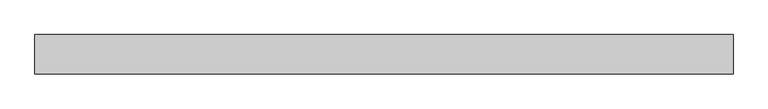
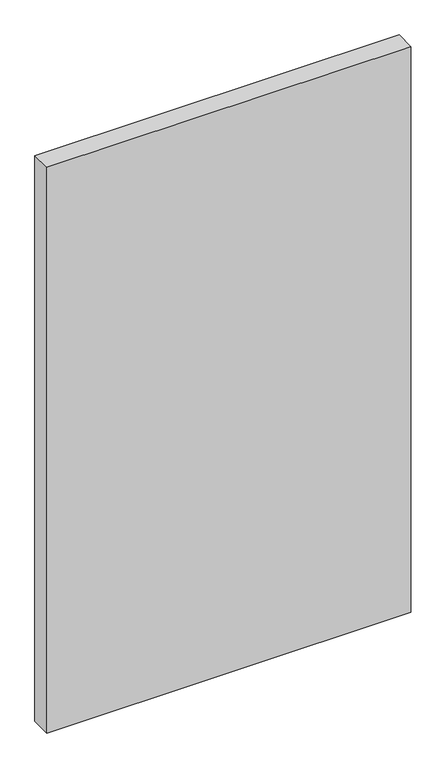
"""IFC4 building model written with IfcOpenShell, lengths in millimetres: plate geometry, Пустая системная панель : Пустая системная панель."""

import ifcopenshell
import ifcopenshell.guid

model = None  # the IFC model being written
_history = None  # IfcOwnerHistory: only IFC2X3 demands one
_inside = {}  # id of a spatial element -> (the spatial element, [elements in it])
_under = {}  # id of a project, library or spatial element -> (it, [spatial elements below it])
_declared = {}  # id of a project -> (the project, [libraries it declares])
_typed = {}  # id of a type object -> (the type object, [elements of that type])
_made_of = {}  # id of a material, layer set ... -> (it, [elements and type objects made of it])


def new_model(schema):
    """Start an empty IFC model of exactly this schema.

    Asked for "IFC4X3", IfcOpenShell would pick the latest addendum, in which some entities
    have other attributes; the version numbers below select the first issue.
    IFC2X3 requires an IfcOwnerHistory on every rooted entity: one is made here for all.
    """
    global model, _history
    if schema == "IFC4X3":
        model = ifcopenshell.file(schema_version=(4, 3, 0, 0))
    else:
        model = ifcopenshell.file(schema=schema)
    _inside.clear()
    _under.clear()
    _declared.clear()
    _typed.clear()
    _made_of.clear()
    _history = None
    if model.schema == "IFC2X3":
        org = make("IfcOrganization", Name="unknown")
        user = make(
            "IfcPersonAndOrganization",
            ThePerson=make("IfcPerson", FamilyName="unknown"),
            TheOrganization=org,
        )
        app = make(
            "IfcApplication",
            ApplicationDeveloper=org,
            Version="unknown",
            ApplicationFullName="unknown",
            ApplicationIdentifier="unknown",
        )
        _history = make(
            "IfcOwnerHistory",
            OwningUser=user,
            OwningApplication=app,
            ChangeAction="ADDED",
            CreationDate=0,
        )
    return model


def make(cls, **values):
    """One entity of the class cls with the attributes given. An attribute that is None is left unset."""
    return model.create_entity(
        cls, **{name: value for name, value in values.items() if value is not None}
    )


def rooted(cls, **values):
    """An entity with a GlobalId (a new one), such as an element, a storey or a relation."""
    return make(cls, GlobalId=ifcopenshell.guid.new(), OwnerHistory=_history, **values)


def si_unit(unit_type, name, prefix=None):
    """IfcSIUnit, for example si_unit("LENGTHUNIT", "METRE", prefix="MILLI")."""
    return make("IfcSIUnit", UnitType=unit_type, Prefix=prefix, Name=name)


def assignment(units):
    """IfcUnitAssignment: the units of a project."""
    return None if units is None else make("IfcUnitAssignment", Units=units)


def point(xyz):
    """IfcCartesianPoint."""
    return None if xyz is None else make("IfcCartesianPoint", Coordinates=xyz)


def direction(xyz):
    """IfcDirection."""
    return None if xyz is None else make("IfcDirection", DirectionRatios=xyz)


def frame(location, z_axis=None, x_axis=None):
    """IfcAxis2Placement3D, a coordinate frame: its origin and axes. An axis left out is left unset."""
    return make(
        "IfcAxis2Placement3D",
        Location=point(location),
        Axis=direction(z_axis),
        RefDirection=direction(x_axis),
    )


def origin():
    """The frame at (0, 0, 0) with its axes left unset."""
    return frame((0.0, 0.0, 0.0))


def origin_with_axes():
    """The frame at (0, 0, 0) with the z axis (0, 0, 1) and the x axis (1, 0, 0) written out."""
    return frame((0.0, 0.0, 0.0), z_axis=(0.0, 0.0, 1.0), x_axis=(1.0, 0.0, 0.0))


def place(relative_to, where):
    """IfcLocalPlacement: puts the frame where relative to a parent placement (None: the world)."""
    return make(
        "IfcLocalPlacement", PlacementRelTo=relative_to, RelativePlacement=where
    )


def context(
    kind, dimensions, precision=None, world=None, true_north=None, identifier=None
):
    """IfcGeometricRepresentationContext, for example the 3D "Model" context."""
    return make(
        "IfcGeometricRepresentationContext",
        ContextIdentifier=identifier,
        ContextType=kind,
        CoordinateSpaceDimension=dimensions,
        Precision=precision,
        WorldCoordinateSystem=world,
        TrueNorth=true_north,
    )


def project(units=None, contexts=None):
    """IfcProject with its units and contexts."""
    return rooted(
        "IfcProject",
        Name="project",
        RepresentationContexts=contexts,
        UnitsInContext=assignment(units),
    )


def spatial(cls, under=None, at=None, **own):
    """A site, building, storey or space (cls), placed at a placement, below another one or the project."""
    s = rooted(cls, ObjectPlacement=at, **own)
    if under is not None:
        _under.setdefault(under.id(), (under, []))[1].append(s)
    return s


def polyline(points):
    """IfcPolyline through the points."""
    return make("IfcPolyline", Points=[point(p) for p in points])


def outline(outer, holes=None, kind="AREA"):
    """IfcArbitraryClosedProfileDef: a profile drawn as a closed curve; with holes, ...WithVoids."""
    if holes is None:
        return make("IfcArbitraryClosedProfileDef", ProfileType=kind, OuterCurve=outer)
    return make(
        "IfcArbitraryProfileDefWithVoids",
        ProfileType=kind,
        OuterCurve=outer,
        InnerCurves=holes,
    )


def extrude(swept, where, along, depth):
    """IfcExtrudedAreaSolid: the profile swept, set in the frame where, extruded along a direction by depth."""
    return make(
        "IfcExtrudedAreaSolid",
        SweptArea=swept,
        Position=where,
        ExtrudedDirection=direction(along),
        Depth=depth,
    )


def shape(context_of_items, identifier, shape_type, items):
    """IfcShapeRepresentation: the items that make up one representation, for example the "Body"."""
    return make(
        "IfcShapeRepresentation",
        ContextOfItems=context_of_items,
        RepresentationIdentifier=identifier,
        RepresentationType=shape_type,
        Items=items,
    )


def source(mapping_origin, context_of_items, identifier, shape_type, items):
    """IfcRepresentationMap: a shape defined once, which mapped items show again and again."""
    return make(
        "IfcRepresentationMap",
        MappingOrigin=mapping_origin,
        MappedRepresentation=shape(context_of_items, identifier, shape_type, items),
    )


def transform(
    local_origin,
    x_axis=None,
    y_axis=None,
    z_axis=None,
    scale=None,
    scale2=None,
    scale3=None,
    uniform=True,
):
    """IfcCartesianTransformationOperator3D, or its non-uniform kind. x_axis, y_axis, z_axis: its Axis1, 2, 3."""
    if uniform:
        return make(
            "IfcCartesianTransformationOperator3D",
            Axis1=direction(x_axis),
            Axis2=direction(y_axis),
            LocalOrigin=point(local_origin),
            Scale=scale,
            Axis3=direction(z_axis),
        )
    return make(
        "IfcCartesianTransformationOperator3DnonUniform",
        Axis1=direction(x_axis),
        Axis2=direction(y_axis),
        LocalOrigin=point(local_origin),
        Scale=scale,
        Axis3=direction(z_axis),
        Scale2=scale2,
        Scale3=scale3,
    )


def mapped(mapping_source, mapping_target):
    """IfcMappedItem: shows the shape of a source again, moved by a transform."""
    return make(
        "IfcMappedItem", MappingSource=mapping_source, MappingTarget=mapping_target
    )


def made_of(thing, what):
    """Note that an element or type object is made of a material, layer set ...; save() writes the relation."""
    if what is not None:
        _made_of.setdefault(what.id(), (what, []))[1].append(thing)
    return thing


def element(
    cls,
    number,
    at=None,
    inside=None,
    cuts=None,
    type_object=None,
    material=None,
    context=None,
    identifier="Body",
    shape_type=None,
    held_by="IfcProductDefinitionShape",
    body=None,
    shapes=None,
    **own,
):
    """One element of the class cls, such as IfcWall. Its Tag is "e" and its number.

    at: its placement. inside: the storey or other place that contains it. cuts: it is an
    opening in that element (IfcRelVoidsElement). A single representation is given by context,
    identifier, shape_type and body (its items); several are given by shapes. held_by: the class
    of the entity that holds the representations. save() writes the other relations.
    """
    e = rooted(cls, Tag="e%d" % number, ObjectPlacement=at, **own)
    if body is not None:
        shapes = [shape(context, identifier, shape_type, body)]
    if shapes is not None:
        e.Representation = make(held_by, Representations=shapes)
    if inside is not None:
        _inside.setdefault(inside.id(), (inside, []))[1].append(e)
    if cuts is not None:
        rooted(
            "IfcRelVoidsElement", RelatingBuildingElement=cuts, RelatedOpeningElement=e
        )
    if type_object is not None:
        _typed.setdefault(type_object.id(), (type_object, []))[1].append(e)
    return made_of(e, material)


def aggregate(whole, parts):
    """IfcRelAggregates: a whole, such as a stair, and the parts it consists of."""
    return rooted("IfcRelAggregates", RelatingObject=whole, RelatedObjects=parts)


def save(model, path):
    """Write the relations noted so far, then the file.

    IfcRelAggregates (storeys below a building ...), IfcRelContainedInSpatialStructure (elements
    in a storey), IfcRelDefinesByType, IfcRelAssociatesMaterial and IfcRelDeclares: one each for
    every whole, place, type object, material and project.
    """
    for whole, parts in _under.values():
        aggregate(whole, parts)
    for where, things in _inside.values():
        rooted(
            "IfcRelContainedInSpatialStructure",
            RelatedElements=things,
            RelatingStructure=where,
        )
    for kind, things in _typed.values():
        rooted("IfcRelDefinesByType", RelatedObjects=things, RelatingType=kind)
    for what, things in _made_of.values():
        rooted("IfcRelAssociatesMaterial", RelatedObjects=things, RelatingMaterial=what)
    for by, libraries in _declared.values():
        rooted("IfcRelDeclares", RelatingContext=by, RelatedDefinitions=libraries)
    model.write(path)


def plate_a96cb64a(model_context):
    return source(origin(), model_context, "Body", "SweptSolid", [
        extrude(outline(polyline([(888.75, -50.0), (-888.75, -50.0), (-888.75, 50.0), (888.75, 50.0), (888.75, -50.0)])), origin_with_axes(), (0.0, 0.0, 1.0), 2920.0),
    ])


if __name__ == "__main__":
    model = new_model("IFC4")
    model_context = context("Model", 3, world=origin())
    ifc_project = project(units=[si_unit("LENGTHUNIT", "METRE", prefix="MILLI")], contexts=[model_context])
    site = spatial("IfcSite", under=ifc_project)
    building = spatial("IfcBuilding", under=site)
    placement = place(None, origin())
    plate_shape = plate_a96cb64a(model_context)
    element("IfcPlate", 1, ObjectType="Пустая системная панель : Пустая системная панель", at=placement, inside=building, context=model_context, shape_type="MappedRepresentation", body=[
        mapped(plate_shape, transform((0.0, 0.0, 0.0), x_axis=(1.0, 0.0, 0.0), y_axis=(0.0, 1.0, 0.0), z_axis=(0.0, 0.0, 1.0))),
    ])
    save(model, "model.ifc")
